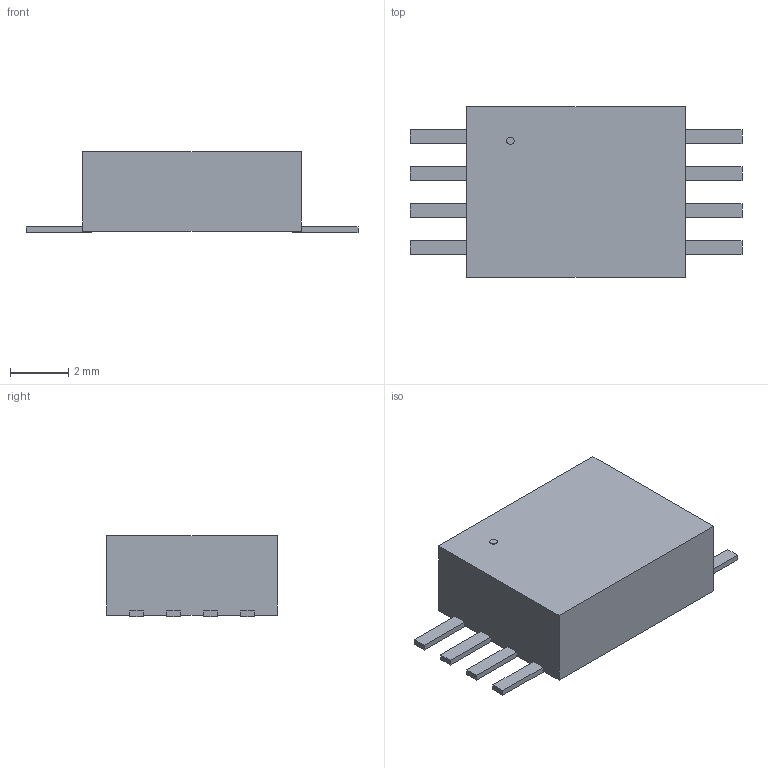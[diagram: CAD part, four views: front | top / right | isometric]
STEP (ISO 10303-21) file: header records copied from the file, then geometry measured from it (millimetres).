
FILE_DESCRIPTION(('FreeCAD Model'),'2;1');
FILE_NAME('Open CASCADE Shape Model','2026-09-23T12:07:02',('FreeCAD'),( 'FreeCAD'),'Open CASCADE STEP processor 7.8','FreeCAD','Unknown');
FILE_SCHEMA(('AUTOMOTIVE_DESIGN { 1 0 10303 214 1 1 1 1 }'));
Length unit declared in the file: millimetre
Products named in the file (1): Open CASCADE STEP translator 7.8 6
Bounding box: 11.4 x 5.85 x 2.79 mm (x, y, z)
Volume: 121 mm3; surface area: 186.3 mm2
Topology: 10 solids, 10 shells, 88 faces, 204 edges, 136 vertices
Faces by surface type: plane 88
Entity records: 2440 total; most frequent: CARTESIAN_POINT 429, ORIENTED_EDGE 408, DIRECTION 382, EDGE_CURVE 204, LINE 204, VECTOR 204, VERTEX_POINT 136, AXIS2_PLACEMENT_3D 89
